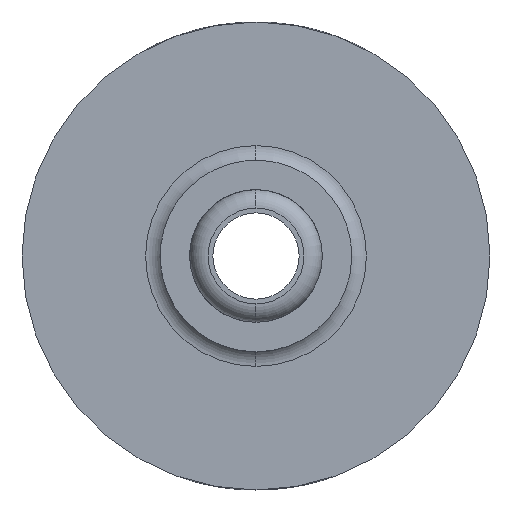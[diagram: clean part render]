
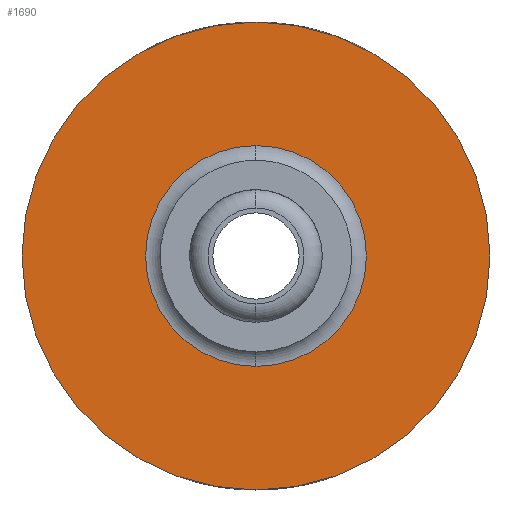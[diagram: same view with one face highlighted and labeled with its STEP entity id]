
A CAD part, left-side view. The second image highlights one B-rep face of the part: STEP entity #1690.
In plain terms, the highlighted planar face has unit normal (-1, 0, 0).
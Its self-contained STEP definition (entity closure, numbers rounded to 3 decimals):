
#383=FACE_BOUND('',#517,.T.);
#393=PLANE('',#1815);
#418=FACE_OUTER_BOUND('',#516,.T.);
#516=EDGE_LOOP('',(#1151,#1152));
#517=EDGE_LOOP('',(#1153,#1154));
#623=CIRCLE('',#1811,1.498);
#627=CIRCLE('',#1816,3.175);
#628=CIRCLE('',#1817,3.175);
#629=CIRCLE('',#1818,1.498);
#695=VERTEX_POINT('',#2317);
#696=VERTEX_POINT('',#2318);
#699=VERTEX_POINT('',#2326);
#700=VERTEX_POINT('',#2327);
#877=EDGE_CURVE('',#695,#696,#623,.T.);
#881=EDGE_CURVE('',#699,#700,#627,.T.);
#882=EDGE_CURVE('',#700,#699,#628,.T.);
#883=EDGE_CURVE('',#696,#695,#629,.T.);
#1151=ORIENTED_EDGE('',*,*,#881,.T.);
#1152=ORIENTED_EDGE('',*,*,#882,.T.);
#1153=ORIENTED_EDGE('',*,*,#883,.T.);
#1154=ORIENTED_EDGE('',*,*,#877,.T.);
#1690=ADVANCED_FACE('',(#418,#383),#393,.F.);
#1811=AXIS2_PLACEMENT_3D('',#2319,#1947,#1948);
#1815=AXIS2_PLACEMENT_3D('',#2325,#1955,#1956);
#1816=AXIS2_PLACEMENT_3D('',#2328,#1957,#1958);
#1817=AXIS2_PLACEMENT_3D('',#2329,#1959,#1960);
#1818=AXIS2_PLACEMENT_3D('',#2330,#1961,#1962);
#1947=DIRECTION('center_axis',(1.,0.,0.));
#1948=DIRECTION('ref_axis',(0.,0.,
1.));
#1955=DIRECTION('center_axis',(1.,0.,0.));
#1956=DIRECTION('ref_axis',(0.,0.,-1.));
#1957=DIRECTION('center_axis',(-1.,0.,0.));
#1958=DIRECTION('ref_axis',(0.,0.,1.));
#1959=DIRECTION('center_axis',(-1.,0.,0.));
#1960=DIRECTION('ref_axis',(0.,0.,
-1.));
#1961=DIRECTION('center_axis',(1.,0.,0.));
#1962=DIRECTION('ref_axis',(0.,0.,-1.));
#2317=CARTESIAN_POINT('',(-6.125,0.,1.498));
#2318=CARTESIAN_POINT('',(-6.125,0.,-1.498));
#2319=CARTESIAN_POINT('Origin',(-6.125,0.,0.));
#2325=CARTESIAN_POINT('Origin',(-6.125,-3.213,0.));
#2326=CARTESIAN_POINT('',(-6.125,0.,3.175));
#2327=CARTESIAN_POINT('',(-6.125,0.,-3.175));
#2328=CARTESIAN_POINT('Origin',(-6.125,0.,0.));
#2329=CARTESIAN_POINT('Origin',(-6.125,0.,0.));
#2330=CARTESIAN_POINT('Origin',(-6.125,0.,0.));
